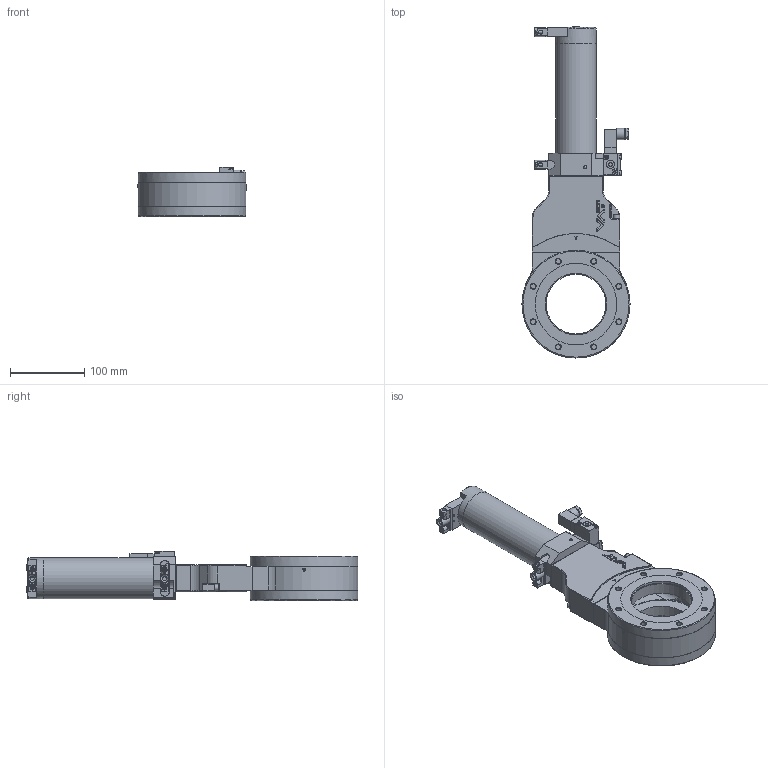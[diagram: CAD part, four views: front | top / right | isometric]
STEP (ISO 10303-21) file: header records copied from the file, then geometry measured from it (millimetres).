
FILE_DESCRIPTION(/* description */ (''),/* implementation_level */ '2;1');
FILE_NAME(/* name */ '1031918480_203.stp',/* time_stamp */ '2012-02-07T14:38:54+01:00',/* author */ (''),/* organization */ (''),/* preprocessor_version */ 'ST-DEVELOPER v11',/* originating_system */ 'SIEMENS PLM Software NX 7.5',/* authorisation */ '');
FILE_SCHEMA (('CONFIG_CONTROL_DESIGN'));
Length unit declared in the file: millimetre
Products named in the file (44): N-8406-013_3.2; N-8406-013_2.1; 73662-01.1; 202839_1.2; N-6121-039.1; N-6099-417.1; 92838-01_3.2; 92838-01_1.2; 92838-01_2.2; 80477-01.1; N-7100-005_2.1; 92838-01_4.2; 80478-01.1; N-6195-007.2; 93115-01.1; 87105-01.1; N-7557-016_1.1; N-7557-018.1; N-7557-016_2.1; N-7557-016_3.1; N-6024-524.1; N-5018-005.1; n-6121-027.2; 251093.3; 77379-01.1; T-9001-055.1; N-6016-478.2; 253879.3; n-6134-407; 253882.4; 224795.1; 247750.1; 251289.1; 252391.1; N-7108-010_2.1; 313018.1; 251094.1; 87090-R1.22_NX-ARRAGMNTunbetaetigt Hub 0mm (mit Feder); 94800-R1.7_NX-ARRAGMNTKONFIG1; 251092.4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
Assembly tree (60 placements, depth 5):
  258754.16
    78855-R1.9_NX-ARRAGMNTZUSAMMENST1  x2
      N-6016-478.2
      T-9001-055.1
      78856-R1.3
        N-6099-417.1  x2
        N-6121-039.1
        202839_1.2
        73662-01.1
        N-8406-013_1_1.4_NX-ARRAGMNTZUSAMMENST1
          N-8406-013_2.1
          202839_1.2
          N-8406-013_3.2
      77379-01.1
    251092.4
      251093.3
      n-6121-027.2  x2
    251094.1
    94800-R1.7_NX-ARRAGMNTKONFIG1
      N-5018-005.1  x2
      N-6024-524.1  x6
      N-7557-016_3.1
      N-7557-016_2.1
      N-7557-018.1
      N-7557-016_1.1
    313018.1  x2
    87090-R1.22_NX-ARRAGMNTunbetaetigt Hub 0mm (mit Feder)  x2
      87105-01.1
      93115-01.1
      N-6195-007.2
      80478-01.1
      92838-01_4.2
      N-7100-005_2.1
      80477-01.1
      92838-01_2.2
      92838-01_1.2
      92838-01_3.2
    N-7108-010_2.1  x2
    252391.1
    251289.1
    247750.1  x2
    224795.1  x2
    253882.4
    n-6134-407  x2
    253879.3
Bounding box: 145.6 x 447.45 x 66.3 mm (x, y, z)
Volume: 1117856.9 mm3; surface area: 288725.5 mm2
Topology: 82 solids, 83 shells, 2183 faces, 5272 edges, 3377 vertices
Faces by surface type: plane 1237, cylinder 583, cone 111, bspline 104, torus 89, extrusion 41, sphere 16, revolution 2
Full cylindrical faces by diameter (mm): 1.4 x4, 1.5 x4, 1.875 x2, 2 x4, 2.115 x8, 2.3 x2, 2.475 x6, 2.5 x6, 2.56 x2, 2.575 x2, 3 x15, 3.2 x2, 3.3 x2, 3.4 x4, 3.5 x14, 4 x2, 4.16 x4, 4.2 x15, 4.3 x2, 4.7 x4, 5 x13, 5.1 x3, 5.3 x2, 5.5 x6, 5.6 x2, 5.65 x2, 5.7 x2, 5.8 x4, 6 x9, 6.2 x2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
Entity records: 59902 total; most frequent: CARTESIAN_POINT 19934, DIRECTION 7032, ORIENTED_EDGE 6790, EDGE_CURVE 3395, AXIS2_PLACEMENT_3D 2620, VERTEX_POINT 2351, EDGE_LOOP 2055, VECTOR 1791
